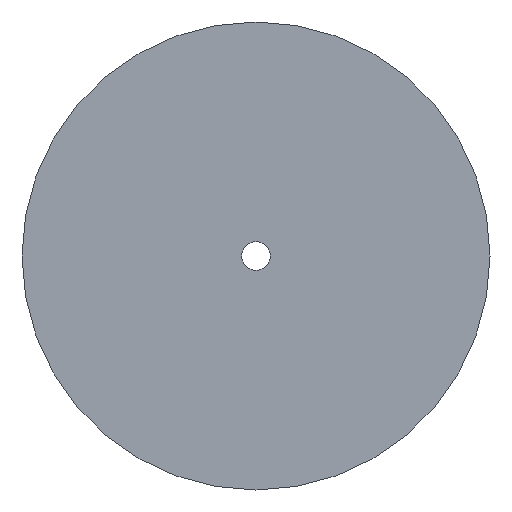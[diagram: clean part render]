
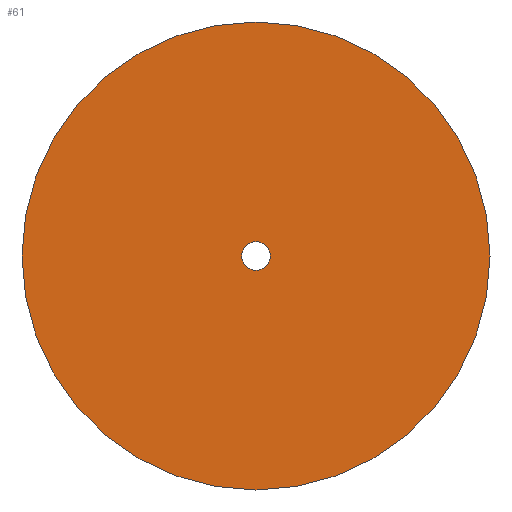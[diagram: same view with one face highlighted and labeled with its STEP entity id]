
A CAD part, front view. The second image highlights one B-rep face of the part: STEP entity #61.
In plain terms, the highlighted planar face has unit normal (0, -1, 0).
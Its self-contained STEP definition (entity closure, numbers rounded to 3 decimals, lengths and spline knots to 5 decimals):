
#61=ADVANCED_FACE('0:45',(#87,#88),#89,.F.);
#87=FACE_OUTER_BOUND('',#116,.T.);
#88=FACE_BOUND('',#117,.T.);
#89=PLANE('',#118);
#116=EDGE_LOOP('',(#193,#194));
#117=EDGE_LOOP('',(#195,#196));
#118=AXIS2_PLACEMENT_3D('',#197,#198,#199);
#193=ORIENTED_EDGE('',*,*,#225,.F.);
#194=ORIENTED_EDGE('',*,*,#221,.F.);
#195=ORIENTED_EDGE('',*,*,#229,.F.);
#196=ORIENTED_EDGE('',*,*,#213,.F.);
#197=CARTESIAN_POINT('',(0.0,-0.0115,0.0115));
#198=DIRECTION('',(0.0,1.0,0.));
#199=DIRECTION('',(1.0,0.0,0.0));
#213=EDGE_CURVE('0:63',#240,#243,#244,.T.);
#221=EDGE_CURVE('0:54',#256,#259,#260,.F.);
#225=EDGE_CURVE('0:54',#259,#256,#265,.F.);
#229=EDGE_CURVE('0:63',#243,#240,#269,.T.);
#240=VERTEX_POINT('',#282);
#243=VERTEX_POINT('',#286);
#244=CIRCLE('',#287,0.0055);
#256=VERTEX_POINT('',#302);
#259=VERTEX_POINT('',#306);
#260=CIRCLE('',#307,0.09);
#265=CIRCLE('',#313,0.09);
#269=CIRCLE('',#317,0.0055);
#282=CARTESIAN_POINT('',(0.0055,-0.0115,0.0115));
#286=CARTESIAN_POINT('',(-0.0055,-0.0115,0.0115));
#287=AXIS2_PLACEMENT_3D('',#329,#330,#331);
#302=CARTESIAN_POINT('',(0.09,-0.0115,0.0115));
#306=CARTESIAN_POINT('',(-0.09,-0.0115,0.0115));
#307=AXIS2_PLACEMENT_3D('',#345,#346,#347);
#313=AXIS2_PLACEMENT_3D('',#355,#356,#357);
#317=AXIS2_PLACEMENT_3D('',#367,#368,#369);
#329=CARTESIAN_POINT('',(0.0,-0.0115,0.0115));
#330=DIRECTION('',(0.0,-1.0,0.));
#331=DIRECTION('',(1.0,0.0,0.0));
#345=CARTESIAN_POINT('',(0.0,-0.0115,0.0115));
#346=DIRECTION('',(0.0,-1.0,0.));
#347=DIRECTION('',(1.0,0.0,0.0));
#355=CARTESIAN_POINT('',(0.0,-0.0115,0.0115));
#356=DIRECTION('',(0.0,-1.0,0.));
#357=DIRECTION('',(1.0,0.0,0.0));
#367=CARTESIAN_POINT('',(0.0,-0.0115,0.0115));
#368=DIRECTION('',(0.0,-1.0,0.));
#369=DIRECTION('',(1.0,0.0,0.0));
